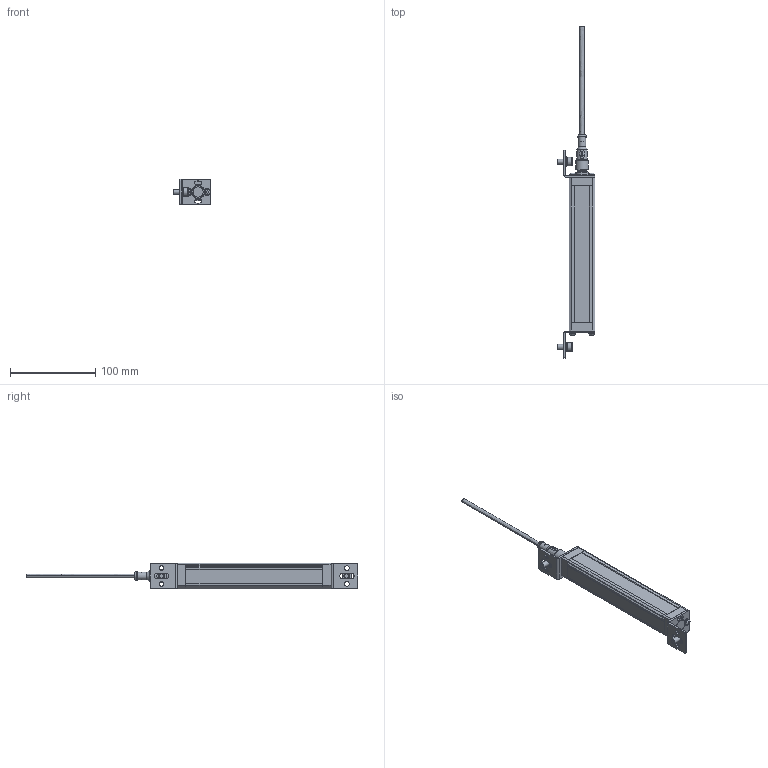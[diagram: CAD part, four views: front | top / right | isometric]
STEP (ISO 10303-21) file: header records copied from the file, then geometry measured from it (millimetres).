
FILE_DESCRIPTION(/* description */ (''),/* implementation_level */ '2;1');
FILE_NAME(/* name */ 'QE16-10-150.prt.stp',/* time_stamp */ '2023-07-18T19:55:26+08:00',/* author */ (''),/* organization */ (''),/* preprocessor_version */ 'ST-DEVELOPER v14',/* originating_system */ 'SIEMENS PLM Software NX 8.0',/* authorisation */ '');
FILE_SCHEMA (('CONFIG_CONTROL_DESIGN'));
Products named in the file (1): QE16-10-150
Bounding box: 44.2 x 388.8 x 30 mm (x, y, z)
Volume: 154506.3 mm3; surface area: 53376.2 mm2
Topology: 25 solids, 25 shells, 615 faces, 1569 edges, 1039 vertices
Faces by surface type: plane 335, cylinder 196, bspline 57, cone 18, sphere 5, torus 4
Full cylindrical faces by diameter (mm): 0.7 x2, 1 x5, 2 x5, 2.2 x8, 3.6 x8, 4 x4, 5.5 x12, 6 x2, 7 x2, 8 x1, 9.04 x1, 9.1 x1, 10 x3, 10.8 x1, 11 x2, 11.85 x1, 11.9 x1, 14.5 x1, 15 x2, 15.2 x2
Entity records: 41715 total; most frequent: CARTESIAN_POINT 27549, ORIENTED_EDGE 2832, DIRECTION 2774, EDGE_CURVE 1416, AXIS2_PLACEMENT_3D 1007, VERTEX_POINT 983, EDGE_LOOP 813, LINE 760
